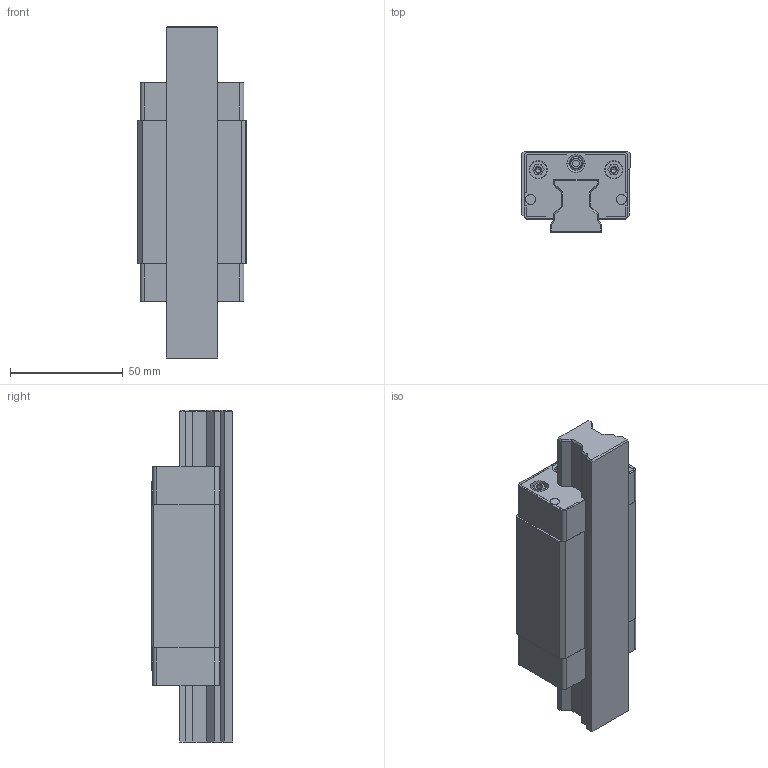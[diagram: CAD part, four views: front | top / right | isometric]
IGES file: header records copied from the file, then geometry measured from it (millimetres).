
Start section: 3D InterOp IGES (v. 2019 1.0.2), Spatial Corp. Copyright (c) 1999-2017.
Global section: file name: R1822_size25.igs; native system: Spatial Corp.; preprocessor: 3D InterOp GENERIC/IGES 3.0; author: Noname; organization: Noname; date: 20220630.112853; units: millimetre
Bounding box: 48 x 36 x 147 mm (x, y, z)
Surface area: 49264.8 mm2 (no closed solid volume)
Topology: 0 solids, 0 shells, 376 faces, 1948 edges, 1928 vertices
Faces by surface type: extrusion 226, revolution 150
